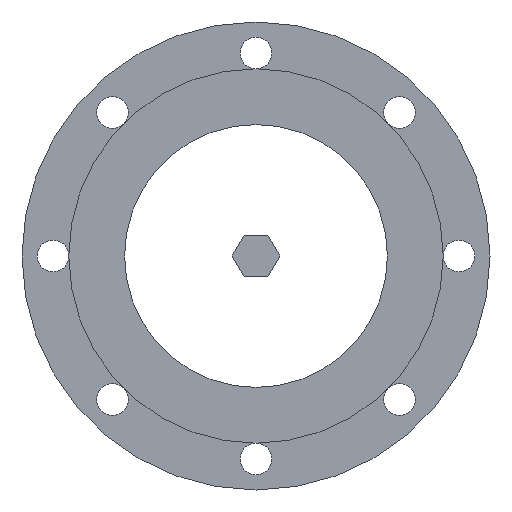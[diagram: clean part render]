
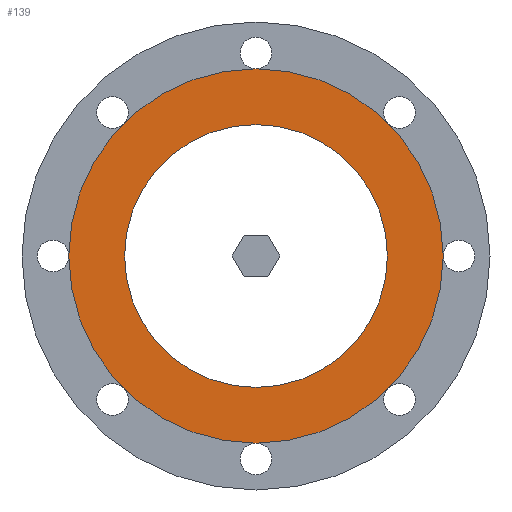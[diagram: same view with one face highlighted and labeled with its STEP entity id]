
A CAD part, front view. The second image highlights one B-rep face of the part: STEP entity #139.
In plain terms, the highlighted planar face has unit normal (0, -1, 0).
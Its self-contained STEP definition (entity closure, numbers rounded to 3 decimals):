
#139 = ADVANCED_FACE( '', ( #257, #258 ), #259, .T. );
#257 = FACE_OUTER_BOUND( '', #383, .T. );
#258 = FACE_BOUND( '', #384, .T. );
#259 = PLANE( '', #385 );
#383 = EDGE_LOOP( '', ( #539 ) );
#384 = EDGE_LOOP( '', ( #540 ) );
#385 = AXIS2_PLACEMENT_3D( '', #541, #542, #543 );
#539 = ORIENTED_EDGE( '', *, *, #684, .T. );
#540 = ORIENTED_EDGE( '', *, *, #678, .F. );
#541 = CARTESIAN_POINT( '', ( 95.5, 0., 0. ) );
#542 = DIRECTION( '', ( 0., -1., 0. ) );
#543 = DIRECTION( '', ( 0., 0., -1. ) );
#678 = EDGE_CURVE( '', #776, #776, #777, .T. );
#684 = EDGE_CURVE( '', #784, #784, #785, .T. );
#776 = VERTEX_POINT( '', #895 );
#777 = CIRCLE( '', #896, 95.5 );
#784 = VERTEX_POINT( '', #906 );
#785 = CIRCLE( '', #907, 136. );
#895 = CARTESIAN_POINT( '', ( 0., 0., -95.5 ) );
#896 = AXIS2_PLACEMENT_3D( '', #1005, #1006, #1007 );
#906 = CARTESIAN_POINT( '', ( 0., 0., -136. ) );
#907 = AXIS2_PLACEMENT_3D( '', #1011, #1012, #1013 );
#1005 = CARTESIAN_POINT( '', ( 0., 0., 0. ) );
#1006 = DIRECTION( '', ( 0., -1., 0. ) );
#1007 = DIRECTION( '', ( 0., 0., -1. ) );
#1011 = CARTESIAN_POINT( '', ( 0., 0., 0. ) );
#1012 = DIRECTION( '', ( 0., -1., 0. ) );
#1013 = DIRECTION( '', ( 0., 0., -1. ) );
